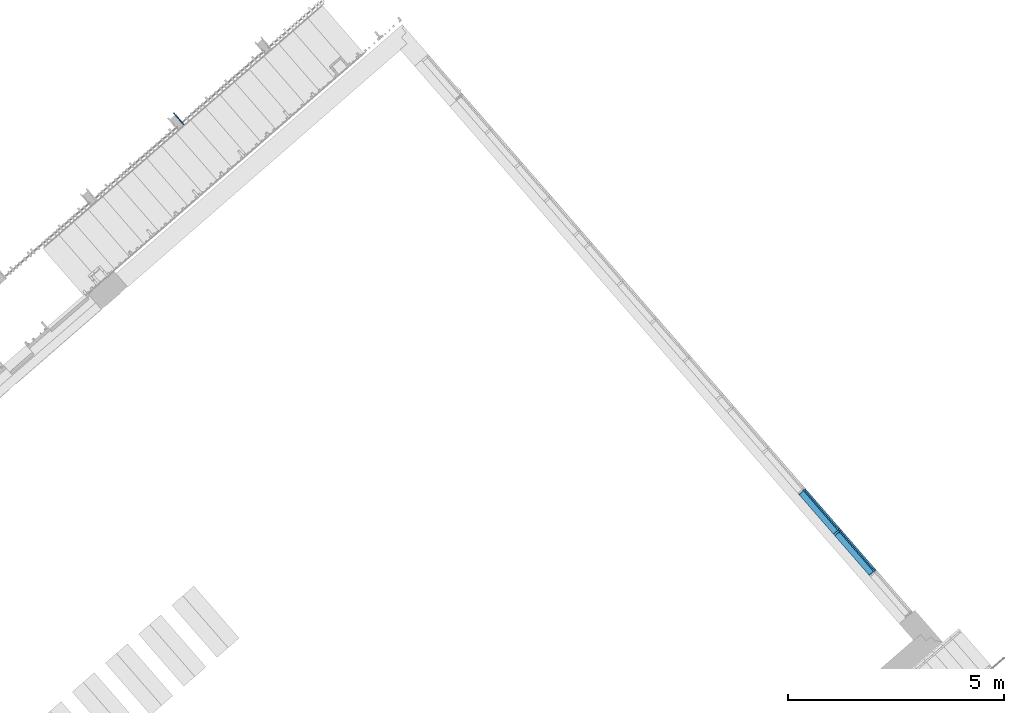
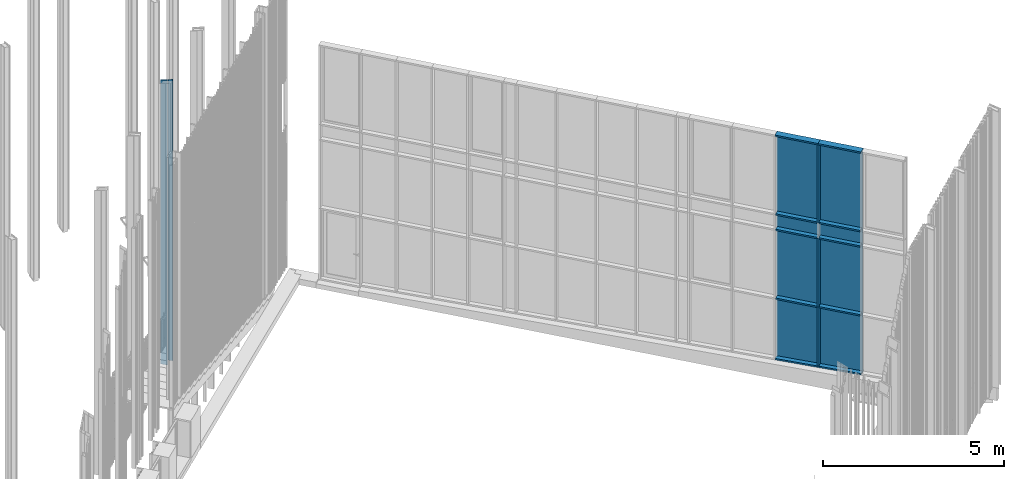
# One storey, part 56 of 390: 23 discrete accessories, 1 element without a shape of its own.
"""IFC2X3 building model written with IfcOpenShell, lengths in millimetres."""

from ifc_helpers import new_model, entity, si_unit, converted_unit, derived_unit, money_unit, direction, frame, origin_with_axes, place, context, subcontext, project, spatial, polyline, outline, extrude, clip, halfspace, faceted_brep, source, transform, mapped, material, material_list, type_object, element, aggregate, save


model = new_model("IFC2X3")

# Units and contexts
model_context = context("Model", 3, precision=1e-05, world=origin_with_axes(), true_north=direction((0.0, 1.0)))
body_context = subcontext(model_context, "Body", "Model", "MODEL_VIEW")
ifc_project = project(units=[si_unit("LENGTHUNIT", "METRE", prefix="MILLI"), si_unit("AREAUNIT", "SQUARE_METRE"), si_unit("VOLUMEUNIT", "CUBIC_METRE"), converted_unit("PLANEANGLEUNIT", "DEGREE", entity("IfcPlaneAngleMeasure", 0.0174532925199), si_unit("PLANEANGLEUNIT", "RADIAN"), dimensions=[0, 0, 0, 0, 0, 0, 0]), si_unit("SOLIDANGLEUNIT", "STERADIAN"), money_unit("EUR"), converted_unit("TIMEUNIT", "Year", entity("IfcTimeMeasure", 31556926.0), si_unit("TIMEUNIT", "SECOND"), dimensions=[0, 0, 1, 0, 0, 0, 0]), si_unit("MASSUNIT", "GRAM", prefix="KILO"), si_unit("THERMODYNAMICTEMPERATUREUNIT", "DEGREE_CELSIUS"), si_unit("LUMINOUSINTENSITYUNIT", "LUMEN"), si_unit("ENERGYUNIT", "JOULE", prefix="MEGA"), derived_unit("THERMALCONDUCTANCEUNIT", [(si_unit("POWERUNIT", "WATT"), 1), (si_unit("LENGTHUNIT", "METRE"), -1), (si_unit("THERMODYNAMICTEMPERATUREUNIT", "KELVIN"), -1)]), derived_unit("SPECIFICHEATCAPACITYUNIT", [(si_unit("ENERGYUNIT", "JOULE"), 1), (si_unit("MASSUNIT", "GRAM", prefix="KILO"), -1), (si_unit("THERMODYNAMICTEMPERATUREUNIT", "KELVIN"), -1)]), derived_unit("MASSDENSITYUNIT", [(si_unit("MASSUNIT", "GRAM", prefix="KILO"), 1), (si_unit("VOLUMEUNIT", "CUBIC_METRE"), -1)])], contexts=[model_context])

# Site, building, storey
site_placement = place(None, origin_with_axes())
site = spatial("IfcSite", under=ifc_project, at=site_placement, Name="Site", CompositionType="ELEMENT")
building_placement = place(site_placement, origin_with_axes())
building = spatial("IfcBuilding", under=site, at=building_placement, Name="Building", CompositionType="ELEMENT")
storey_placement = place(building_placement, origin_with_axes())
storey = spatial("IfcBuildingStorey", under=building, at=storey_placement, Name="1 korrus", CompositionType="ELEMENT", Elevation=0.0)

# Discrete accessories
ifc_material_1 = material(Name="GENEERILINE - VÄLINE VOODER")
discrete_accessory_type_1 = type_object("IfcDiscreteAccessoryType", Name="GENEERILINE - VÄLINE VOODER")
shared_shape_1 = source(origin_with_axes(), body_context, "Body", "Brep", [
    faceted_brep([(-162214.734723, 119652.308107, 100.0), (-162197.673015, 119513.351645, 100.0), (-162197.673015, 119513.351645, 9583.92304846), (-162214.734723, 119652.308107, 9546.41016151), (-162192.898708, 119654.989232, 100.0), (-162175.837, 119516.032771, 100.0), (-162175.837, 119516.032771, 9583.92304846), (-162192.898708, 119654.989232, 9546.41016151)], [[[0, 1, 2, 3]], [[1, 0, 4, 5]], [[6, 2, 1, 5]], [[3, 2, 6, 7]], [[0, 3, 7, 4]], [[5, 4, 7, 6]]]),
])
discrete_accessory_1_placement = place(storey_placement, frame((362966.573871, 104142.381226, 0.0), z_axis=(0.0, 0.0, 1.0), x_axis=(0.829037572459, 0.559192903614, 0.0)))
element("IfcDiscreteAccessory", 1, at=discrete_accessory_1_placement, inside=storey, type_object=discrete_accessory_type_1, material=ifc_material_1, Name="Päikesevarjestuspost", context=body_context, shape_type="MappedRepresentation", body=[
    mapped(shared_shape_1, transform((0.0, 0.0, 0.0))),
])
shared_shape_2 = source(origin_with_axes(), body_context, "Body", "Brep", [
    faceted_brep([(-162240.327285, 119860.742798, 9490.1408311), (-162240.327285, 119860.742798, -78.0534808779), (-162215.953417, 119662.233568, -78.0534808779), (-162215.953417, 119662.233568, 9543.73066959), (-162218.49127, 119863.423924, -78.0534808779), (-162218.49127, 119863.423924, 9490.1408311), (-162194.117401, 119664.914694, -78.0534808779), (-162194.117401, 119664.914694, 9543.73066959)], [[[0, 1, 2, 3]], [[4, 1, 0, 5]], [[1, 4, 6, 2]], [[2, 6, 7, 3]], [[5, 0, 3, 7]], [[6, 4, 5, 7]]]),
])
discrete_accessory_2_placement = place(storey_placement, frame((362966.573871, 104142.381226, 0.0), z_axis=(0.0, 0.0, 1.0), x_axis=(0.829037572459, 0.559192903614, 0.0)))
element("IfcDiscreteAccessory", 2, at=discrete_accessory_2_placement, inside=storey, type_object=discrete_accessory_type_1, material=ifc_material_1, Name="Päikesevarjestuspost", context=body_context, shape_type="MappedRepresentation", body=[
    mapped(shared_shape_2, transform((0.0, 0.0, 0.0))),
])

# Curtain wall, discrete accessories
curtain_wall_type = type_object("IfcCurtainWallType", Name="KLF-17", PredefinedType="NOTDEFINED")
curtain_wall_placement = place(storey_placement, frame((175630.823927, 104534.758561, -0.000216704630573), z_axis=(0.0, 0.0, 1.0), x_axis=(1.0, 0.0, 0.0)))
curtain_wall = element("IfcCurtainWall", 3, at=curtain_wall_placement, inside=storey, type_object=curtain_wall_type, Name="Klaasfassaad")
ifc_material_2 = material(Name="Klaas")
discrete_accessory_type_2 = type_object("IfcDiscreteAccessoryType", Name="1260 x 2655 x 20")
discrete_accessory_3_placement = place(curtain_wall_placement, frame((826.634376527, -950.934071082, 6577.50341211), z_axis=(0.0, 0.0, 1.0), x_axis=(-0.65605902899, 0.754709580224, 0.0)))
discrete_accessory_3 = element("IfcDiscreteAccessory", 4, at=discrete_accessory_3_placement, type_object=discrete_accessory_type_2, material=ifc_material_2, Name="KLF-17 klaaspakett", context=body_context, shape_type="SweptSolid", body=[
    extrude(outline(polyline([(-630.000018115, -1317.50318898), (629.999988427, -1317.50318898), (629.999988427, 1337.50319541), (-630.000018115, 1337.50319541), (-630.000018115, -1317.50318898)])), frame((0.0, -9.99999999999, 0.0), z_axis=(0.0, 1.0, 0.0), x_axis=(1.0, 0.0, 0.0)), (0.0, 0.0, 1.0), 20.0),
])
discrete_accessory_4_placement = place(curtain_wall_placement, frame((1653.26875305, -1901.86814216, 6577.50341211), z_axis=(0.0, 0.0, 1.0), x_axis=(-0.65605902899, 0.754709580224, 0.0)))
discrete_accessory_4 = element("IfcDiscreteAccessory", 5, at=discrete_accessory_4_placement, type_object=discrete_accessory_type_2, material=ifc_material_2, Name="KLF-17 klaaspakett", context=body_context, shape_type="SweptSolid", body=[
    extrude(outline(polyline([(-630.000018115, -1317.50318898), (629.999988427, -1317.50318898), (629.999988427, 1337.50319541), (-630.000018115, 1337.50319541), (-630.000018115, -1317.50318898)])), frame((0.0, -9.99999999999, 0.0), z_axis=(0.0, 1.0, 0.0), x_axis=(1.0, 0.0, 0.0)), (0.0, 0.0, 1.0), 20.0),
])
discrete_accessory_type_3 = type_object("IfcDiscreteAccessoryType", Name="1260 x 2017 x 20")
discrete_accessory_5_placement = place(curtain_wall_placement, frame((1653.26875305, -1901.86814216, 1388.65961568), z_axis=(0.0, 0.0, 1.0), x_axis=(-0.65605902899, 0.754709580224, 0.0)))
discrete_accessory_5 = element("IfcDiscreteAccessory", 6, at=discrete_accessory_5_placement, type_object=discrete_accessory_type_3, material=ifc_material_2, Name="KLF-17 klaaspakett", context=body_context, shape_type="SweptSolid", body=[
    extrude(outline(polyline([(-629.999997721, -1011.34061134), (630.000002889, -1011.34061134), (630.000002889, 1006.03820524), (-629.999997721, 976.632086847), (-629.999997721, -1011.34061134)])), frame((0.0, -9.99999999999, 0.0), z_axis=(0.0, 1.0, 0.0), x_axis=(1.0, 0.0, 0.0)), (0.0, 0.0, 1.0), 20.0000000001),
])
discrete_accessory_type_4 = type_object("IfcDiscreteAccessoryType", Name="1260 x 2320 x 20")
discrete_accessory_6_placement = place(curtain_wall_placement, frame((826.634376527, -950.934071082, 3560.0002167), z_axis=(0.0, 0.0, 1.0), x_axis=(-0.65605902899, 0.754709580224, 0.0)))
discrete_accessory_6 = element("IfcDiscreteAccessory", 7, at=discrete_accessory_6_placement, type_object=discrete_accessory_type_4, material=ifc_material_2, Name="KLF-17 klaaspakett", context=body_context, shape_type="SweptSolid", body=[
    extrude(outline(polyline([(-630.000009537, -1160.0), (630.000001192, -1160.0), (630.000001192, 1160.0), (-630.000009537, 1160.0), (-630.000009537, -1160.0)])), frame((0.0, -9.99999999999, 0.0), z_axis=(0.0, 1.0, 0.0), x_axis=(1.0, 0.0, 0.0)), (0.0, 0.0, 1.0), 20.0),
])
discrete_accessory_7_placement = place(curtain_wall_placement, frame((1653.26875305, -1901.86814216, 3560.0002167), z_axis=(0.0, 0.0, 1.0), x_axis=(-0.65605902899, 0.754709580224, 0.0)))
discrete_accessory_7 = element("IfcDiscreteAccessory", 8, at=discrete_accessory_7_placement, type_object=discrete_accessory_type_4, material=ifc_material_2, Name="KLF-17 klaaspakett", context=body_context, shape_type="SweptSolid", body=[
    extrude(outline(polyline([(-630.000009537, -1160.0), (630.000001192, -1160.0), (630.000001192, 1160.0), (-630.000009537, 1160.0), (-630.000009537, -1160.0)])), frame((0.0, -9.99999999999, 0.0), z_axis=(0.0, 1.0, 0.0), x_axis=(1.0, 0.0, 0.0)), (0.0, 0.0, 1.0), 20.0000000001),
])
discrete_accessory_type_5 = type_object("IfcDiscreteAccessoryType", Name="1260 x 520 x 20")
discrete_accessory_8_placement = place(curtain_wall_placement, frame((826.634376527, -950.934071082, 4980.0002167), z_axis=(0.0, 0.0, 1.0), x_axis=(-0.65605902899, 0.754709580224, 0.0)))
discrete_accessory_8 = element("IfcDiscreteAccessory", 9, at=discrete_accessory_8_placement, type_object=discrete_accessory_type_5, material=ifc_material_2, Name="KLF-17 klaaspakett", context=body_context, shape_type="SweptSolid", body=[
    extrude(outline(polyline([(-630.000003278, -259.999999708), (630.000003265, -259.999999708), (630.000003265, 260.0), (-630.000003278, 260.0), (-630.000003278, -259.999999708)])), frame((0.0, -9.99999999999, 0.0), z_axis=(0.0, 1.0, 0.0), x_axis=(1.0, 0.0, 0.0)), (0.0, 0.0, 1.0), 20.0),
])
discrete_accessory_9_placement = place(curtain_wall_placement, frame((1653.26875305, -1901.86814216, 4980.0002167), z_axis=(0.0, 0.0, 1.0), x_axis=(-0.65605902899, 0.754709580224, 0.0)))
discrete_accessory_9 = element("IfcDiscreteAccessory", 10, at=discrete_accessory_9_placement, type_object=discrete_accessory_type_5, material=ifc_material_2, Name="KLF-17 klaaspakett", context=body_context, shape_type="SweptSolid", body=[
    extrude(outline(polyline([(-630.000003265, -259.99999823), (630.000003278, -259.99999823), (630.000003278, 260.0), (-630.000003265, 260.0), (-630.000003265, -259.99999823)])), frame((0.0, -9.99999999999, 0.0), z_axis=(0.0, 1.0, 0.0), x_axis=(1.0, 0.0, 0.0)), (0.0, 0.0, 1.0), 20.0),
])
discrete_accessory_type_6 = type_object("IfcDiscreteAccessoryType", Name="1260 x 2047 x 20")
discrete_accessory_10_placement = place(curtain_wall_placement, frame((826.634376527, -950.934071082, 1373.95650709), z_axis=(0.0, 0.0, 1.0), x_axis=(-0.65605902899, 0.754709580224, 0.0)))
discrete_accessory_10 = element("IfcDiscreteAccessory", 11, at=discrete_accessory_10_placement, type_object=discrete_accessory_type_6, material=ifc_material_2, Name="KLF-17 klaaspakett", context=body_context, shape_type="SweptSolid", body=[
    extrude(outline(polyline([(-630.000006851, -1026.04372361), (630.000003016, -1026.04372361), (630.000003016, 1020.74143571), (-630.000037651, 991.33511124), (-630.000006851, -1026.04372361)])), frame((0.0, -10.0, 0.0), z_axis=(0.0, 1.0, 0.0), x_axis=(1.0, 0.0, 0.0)), (0.0, 0.0, 1.0), 20.0),
])
ifc_material_3 = material(Name="Aluminium MUST")
ifc_material_list = material_list([ifc_material_3, ifc_material_3])
discrete_accessory_type_7 = type_object("IfcDiscreteAccessoryType", Name="50 x 200")
discrete_accessory_11_placement = place(curtain_wall_placement, frame((1239.95156479, -1426.40110662, 5240.0002167), z_axis=(0.65605902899, -0.754709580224, 0.0), x_axis=(0.0, 0.0, 1.0)))
discrete_accessory_11 = element("IfcDiscreteAccessory", 12, at=discrete_accessory_11_placement, type_object=discrete_accessory_type_7, material=ifc_material_list, Name="KLF-17 profiil", context=body_context, shape_type="SweptSolid", body=[
    extrude(outline(polyline([(150.0, -25.0), (150.0, 25.0), (10.0, 25.0), (10.0, -25.0), (150.0, -25.0)])), frame((0.0, 0.0, 25.0), z_axis=(0.0, 0.0, 1.0), x_axis=(0.0, 1.0, 0.0)), (0.0, 0.0, 1.0), 1210.0),
    extrude(outline(polyline([(-50.0, 25.0), (-50.0, -25.0), (-9.99999999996, -25.0), (-9.99999999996, 25.0), (-50.0, 25.0)])), frame((0.0, 0.0, 25.0), z_axis=(0.0, 0.0, 1.0), x_axis=(0.0, 1.0, 0.0)), (0.0, 0.0, 1.0), 1210.0),
])
discrete_accessory_12_placement = place(curtain_wall_placement, frame((413.317188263, -475.467035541, 7915.00660752), z_axis=(0.65605902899, -0.754709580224, 0.0), x_axis=(0.0, 0.0, 1.0)))
discrete_accessory_12 = element("IfcDiscreteAccessory", 13, at=discrete_accessory_12_placement, type_object=discrete_accessory_type_7, Name="KLF-17 profiil", context=body_context, shape_type="SweptSolid", body=[
    extrude(outline(polyline([(9.99999999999, 25.0), (-10.0, 25.0), (-10.0, 0.0), (9.99999999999, 0.0), (9.99999999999, 25.0)])), frame((0.0, 0.0, 0.0), z_axis=(0.0, 0.0, 1.0), x_axis=(0.0, 1.0, 0.0)), (0.0, 0.0, 1.0), 1260.0),
    extrude(outline(polyline([(150.0, 50.0), (9.99999999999, 50.0), (9.99999999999, 0.0), (150.0, 0.0), (150.0, 50.0)])), frame((0.0, 0.0, 0.0), z_axis=(0.0, 0.0, 1.0), x_axis=(0.0, 1.0, 0.0)), (0.0, 0.0, 1.0), 1260.0),
    extrude(outline(polyline([(-50.0, 0.0), (-10.0, 0.0), (-10.0, 50.0), (-50.0, 50.0), (-50.0, 0.0)])), frame((0.0, 0.0, 0.0), z_axis=(0.0, 0.0, 1.0), x_axis=(0.0, 1.0, 0.0)), (0.0, 0.0, 1.0), 1260.0),
])
discrete_accessory_13_placement = place(curtain_wall_placement, frame((413.317188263, -475.467035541, 5240.0002167), z_axis=(0.65605902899, -0.754709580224, 0.0), x_axis=(0.0, 0.0, 1.0)))
discrete_accessory_13 = element("IfcDiscreteAccessory", 14, at=discrete_accessory_13_placement, type_object=discrete_accessory_type_7, material=ifc_material_list, Name="KLF-17 profiil", context=body_context, shape_type="SweptSolid", body=[
    extrude(outline(polyline([(150.0, -25.0), (150.0, 25.0), (9.99999999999, 25.0), (9.99999999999, -25.0), (150.0, -25.0)])), frame((0.0, 0.0, 25.0), z_axis=(0.0, 0.0, 1.0), x_axis=(0.0, 1.0, 0.0)), (0.0, 0.0, 1.0), 1210.0),
    extrude(outline(polyline([(-50.0, 25.0), (-50.0, -25.0), (-10.0, -25.0), (-10.0, 25.0), (-50.0, 25.0)])), frame((0.0, 0.0, 25.0), z_axis=(0.0, 0.0, 1.0), x_axis=(0.0, 1.0, 0.0)), (0.0, 0.0, 1.0), 1210.0),
])
discrete_accessory_14_placement = place(curtain_wall_placement, frame((1239.95156479, -1426.40110662, 5240.0002167), z_axis=(0.0, 0.0, 1.0), x_axis=(-0.65605902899, 0.754709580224, 0.0)))
discrete_accessory_14 = element("IfcDiscreteAccessory", 15, at=discrete_accessory_14_placement, type_object=discrete_accessory_type_7, material=ifc_material_list, Name="KLF-17 profiil", context=body_context, shape_type="SweptSolid", body=[
    extrude(outline(polyline([(-129.607912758, -79.5411148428), (-96.8049613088, -117.276593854), (8.8543799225, -25.4283297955), (-23.948571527, 12.3071492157), (-129.607912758, -79.5411148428)])), frame((0.0, 0.0, 0.0), z_axis=(0.0, 0.0, 1.0), x_axis=(-0.65605902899, -0.754709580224, 0.0)), (0.0, 0.0, 1.0), 2625.00639082),
    extrude(outline(polyline([(54.1369547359, 13.9352119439), (21.3340032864, 51.6706909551), (-8.8543799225, 25.4283297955), (23.9485715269, -12.3071492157), (54.1369547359, 13.9352119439)])), frame((0.0, 0.0, 0.0), z_axis=(0.0, 0.0, 1.0), x_axis=(-0.65605902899, -0.754709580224, 0.0)), (0.0, 0.0, 1.0), 2625.00639082),
])
discrete_accessory_15_placement = place(curtain_wall_placement, frame((1239.95156479, -1426.40110662, 362.615969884), z_axis=(0.655880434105, -0.754504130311, 0.0233318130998), x_axis=(-0.0153070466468, 0.0176087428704, 0.999727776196)))
discrete_accessory_15 = element("IfcDiscreteAccessory", 16, at=discrete_accessory_15_placement, type_object=discrete_accessory_type_7, Name="KLF-17 profiil", context=body_context, shape_type="SweptSolid", body=[
    extrude(outline(polyline([(9.99999999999, -25.0), (9.99999999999, 0.0), (-10.0, 0.0), (-10.0, -25.0), (9.99999999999, -25.0)])), frame((0.0, 0.0, -5.06184960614e-06), z_axis=(0.0, 0.0, 1.0), x_axis=(0.0, 1.0, 0.0)), (0.0, 0.0, 1.0), 1260.34310565),
    extrude(outline(polyline([(150.0, -50.0), (150.0, 0.0), (9.99999999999, 0.0), (9.99999999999, -50.0), (150.0, -50.0)])), frame((0.0, 0.0, -5.06184960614e-06), z_axis=(0.0, 0.0, 1.0), x_axis=(0.0, 1.0, 0.0)), (0.0, 0.0, 1.0), 1260.34310565),
    extrude(outline(polyline([(-50.0, 0.0), (-50.0, -50.0), (-10.0, -50.0), (-10.0, 0.0), (-50.0, 0.0)])), frame((0.0, 0.0, -5.06184960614e-06), z_axis=(0.0, 0.0, 1.0), x_axis=(0.0, 1.0, 0.0)), (0.0, 0.0, 1.0), 1260.34310565),
])
discrete_accessory_16_placement = place(curtain_wall_placement, frame((413.317188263, -475.467035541, 333.209625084), z_axis=(0.655880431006, -0.754504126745, 0.0233320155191), x_axis=(-0.0153071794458, 0.0176088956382, 0.999727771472)))
discrete_accessory_16 = element("IfcDiscreteAccessory", 17, at=discrete_accessory_16_placement, type_object=discrete_accessory_type_7, Name="KLF-17 profiil", context=body_context, shape_type="SweptSolid", body=[
    extrude(outline(polyline([(9.99999999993, -25.0), (10.0, 0.0), (-10.0, 0.0), (-10.0, -25.0), (9.99999999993, -25.0)])), frame((0.0, 0.0, -5.06184250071e-06), z_axis=(0.0, 0.0, 1.0), x_axis=(0.0, 1.0, 0.0)), (0.0, 0.0, 1.0), 1260.34311147),
    extrude(outline(polyline([(150.0, -50.0), (150.0, 0.0), (10.0, 0.0), (9.99999999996, -50.0), (150.0, -50.0)])), frame((0.0, 0.0, -5.06184250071e-06), z_axis=(0.0, 0.0, 1.0), x_axis=(0.0, 1.0, 0.0)), (0.0, 0.0, 1.0), 1260.34311147),
    extrude(outline(polyline([(-50.0, 0.0), (-50.0, -50.0), (-10.0, -50.0), (-10.0, 0.0), (-50.0, 0.0)])), frame((0.0, 0.0, -5.06188513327e-06), z_axis=(0.0, 0.0, 1.0), x_axis=(0.0, 1.0, 0.0)), (0.0, 0.0, 1.0), 1260.34311147),
])
discrete_accessory_17_placement = place(curtain_wall_placement, frame((1239.95156479, -1426.40110662, 362.615969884), z_axis=(0.0, 0.0, 1.0), x_axis=(-0.65605902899, 0.754709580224, 0.0)))
discrete_accessory_17 = element("IfcDiscreteAccessory", 18, at=discrete_accessory_17_placement, type_object=discrete_accessory_type_7, material=ifc_material_list, Name="KLF-17 profiil", context=body_context, shape_type="Clipping", body=[
    clip(extrude(outline(polyline([(-129.607912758, -79.5411148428), (-96.8049613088, -117.276593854), (8.8543799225, -25.4283297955), (-23.948571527, 12.3071492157), (-129.607912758, -79.5411148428)])), frame((0.0, 0.0, 49.4301559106), z_axis=(0.0, 0.0, 1.0), x_axis=(-0.65605902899, -0.754709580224, 0.0)), (0.0, 0.0, 1.0), 1987.95409091), halfspace(frame((1.16660077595, 0.0, 49.9863885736), z_axis=(0.0233320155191, 0.0, 0.999727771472), x_axis=(0.0, -1.0, 0.0)), True)),
    clip(extrude(outline(polyline([(54.1369547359, 13.9352119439), (21.3340032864, 51.6706909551), (-8.8543799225, 25.4283297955), (23.9485715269, -12.3071492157), (54.1369547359, 13.9352119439)])), frame((0.0, 0.0, 49.4301559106), z_axis=(0.0, 0.0, 1.0), x_axis=(-0.65605902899, -0.754709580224, 0.0)), (0.0, 0.0, 1.0), 1987.95409091), halfspace(frame((1.16660077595, 0.0, 49.9863885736), z_axis=(0.0233320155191, 0.0, 0.999727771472), x_axis=(0.0, -1.0, 0.0)), True)),
])
discrete_accessory_18_placement = place(curtain_wall_placement, frame((1239.95156479, -1426.40110662, 2400.0002167), z_axis=(0.0, 0.0, 1.0), x_axis=(-0.65605902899, 0.754709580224, 0.0)))
discrete_accessory_18 = element("IfcDiscreteAccessory", 19, at=discrete_accessory_18_placement, type_object=discrete_accessory_type_7, material=ifc_material_list, Name="KLF-17 profiil", context=body_context, shape_type="SweptSolid", body=[
    extrude(outline(polyline([(-129.607912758, -79.5411148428), (-96.8049613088, -117.276593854), (8.8543799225, -25.4283297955), (-23.948571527, 12.3071492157), (-129.607912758, -79.5411148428)])), frame((0.0, 0.0, 0.0), z_axis=(0.0, 0.0, 1.0), x_axis=(-0.65605902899, -0.754709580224, 0.0)), (0.0, 0.0, 1.0), 2320.0),
    extrude(outline(polyline([(54.1369547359, 13.9352119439), (21.3340032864, 51.6706909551), (-8.8543799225, 25.4283297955), (23.9485715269, -12.3071492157), (54.1369547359, 13.9352119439)])), frame((0.0, 0.0, 0.0), z_axis=(0.0, 0.0, 1.0), x_axis=(-0.65605902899, -0.754709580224, 0.0)), (0.0, 0.0, 1.0), 2320.0),
])
discrete_accessory_19_placement = place(curtain_wall_placement, frame((413.317188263, -475.467035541, 2400.0002167), z_axis=(0.65605902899, -0.754709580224, 0.0), x_axis=(0.0, 0.0, 1.0)))
discrete_accessory_19 = element("IfcDiscreteAccessory", 20, at=discrete_accessory_19_placement, type_object=discrete_accessory_type_7, material=ifc_material_list, Name="KLF-17 profiil", context=body_context, shape_type="SweptSolid", body=[
    extrude(outline(polyline([(150.0, -25.0), (150.0, 25.0), (9.99999999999, 25.0), (9.99999999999, -25.0), (150.0, -25.0)])), frame((0.0, 0.0, 25.0), z_axis=(0.0, 0.0, 1.0), x_axis=(0.0, 1.0, 0.0)), (0.0, 0.0, 1.0), 1210.0),
    extrude(outline(polyline([(-50.0, 25.0), (-50.0, -25.0), (-10.0, -25.0), (-10.0, 25.0), (-50.0, 25.0)])), frame((0.0, 0.0, 25.0), z_axis=(0.0, 0.0, 1.0), x_axis=(0.0, 1.0, 0.0)), (0.0, 0.0, 1.0), 1210.0),
])
discrete_accessory_20_placement = place(curtain_wall_placement, frame((413.317188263, -475.467035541, 4720.0002167), z_axis=(0.65605902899, -0.754709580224, 0.0), x_axis=(0.0, 0.0, 1.0)))
discrete_accessory_20 = element("IfcDiscreteAccessory", 21, at=discrete_accessory_20_placement, type_object=discrete_accessory_type_7, material=ifc_material_list, Name="KLF-17 profiil", context=body_context, shape_type="SweptSolid", body=[
    extrude(outline(polyline([(150.0, -25.0), (150.0, 25.0), (9.99999999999, 25.0), (9.99999999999, -25.0), (150.0, -25.0)])), frame((0.0, 0.0, 25.0), z_axis=(0.0, 0.0, 1.0), x_axis=(0.0, 1.0, 0.0)), (0.0, 0.0, 1.0), 1210.0),
    extrude(outline(polyline([(-50.0, 25.0), (-50.0, -25.0), (-10.0, -25.0), (-10.0, 25.0), (-50.0, 25.0)])), frame((0.0, 0.0, 25.0), z_axis=(0.0, 0.0, 1.0), x_axis=(0.0, 1.0, 0.0)), (0.0, 0.0, 1.0), 1210.0),
])
discrete_accessory_21_placement = place(curtain_wall_placement, frame((1239.95156479, -1426.40110662, 7915.00660752), z_axis=(0.65605902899, -0.754709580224, 0.0), x_axis=(0.0, 0.0, 1.0)))
discrete_accessory_21 = element("IfcDiscreteAccessory", 22, at=discrete_accessory_21_placement, type_object=discrete_accessory_type_7, Name="KLF-17 profiil", context=body_context, shape_type="SweptSolid", body=[
    extrude(outline(polyline([(9.99999999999, 25.0), (-9.99999999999, 25.0), (-9.99999999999, 0.0), (9.99999999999, 0.0), (9.99999999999, 25.0)])), frame((0.0, 0.0, 0.0), z_axis=(0.0, 0.0, 1.0), x_axis=(0.0, 1.0, 0.0)), (0.0, 0.0, 1.0), 1260.0),
    extrude(outline(polyline([(150.0, 50.0), (9.99999999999, 50.0), (9.99999999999, 0.0), (150.0, 0.0), (150.0, 50.0)])), frame((0.0, 0.0, 0.0), z_axis=(0.0, 0.0, 1.0), x_axis=(0.0, 1.0, 0.0)), (0.0, 0.0, 1.0), 1260.0),
    extrude(outline(polyline([(-50.0, 0.0), (-9.99999999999, 0.0), (-9.99999999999, 50.0), (-50.0, 50.0), (-50.0, 0.0)])), frame((0.0, 0.0, 0.0), z_axis=(0.0, 0.0, 1.0), x_axis=(0.0, 1.0, 0.0)), (0.0, 0.0, 1.0), 1260.0),
])
discrete_accessory_22_placement = place(curtain_wall_placement, frame((1239.95156479, -1426.40110662, 2400.0002167), z_axis=(0.65605902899, -0.754709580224, 0.0), x_axis=(0.0, 0.0, 1.0)))
discrete_accessory_22 = element("IfcDiscreteAccessory", 23, at=discrete_accessory_22_placement, type_object=discrete_accessory_type_7, material=ifc_material_list, Name="KLF-17 profiil", context=body_context, shape_type="SweptSolid", body=[
    extrude(outline(polyline([(150.0, -25.0), (150.0, 25.0), (10.0, 25.0), (10.0, -25.0), (150.0, -25.0)])), frame((0.0, 0.0, 25.0), z_axis=(0.0, 0.0, 1.0), x_axis=(0.0, 1.0, 0.0)), (0.0, 0.0, 1.0), 1210.0),
    extrude(outline(polyline([(-50.0, 25.0), (-50.0, -25.0), (-9.99999999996, -25.0), (-9.99999999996, 25.0), (-50.0, 25.0)])), frame((0.0, 0.0, 25.0), z_axis=(0.0, 0.0, 1.0), x_axis=(0.0, 1.0, 0.0)), (0.0, 0.0, 1.0), 1210.0),
])
discrete_accessory_23_placement = place(curtain_wall_placement, frame((1239.95156479, -1426.40110662, 4720.0002167), z_axis=(0.65605902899, -0.754709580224, 0.0), x_axis=(0.0, 0.0, 1.0)))
discrete_accessory_23 = element("IfcDiscreteAccessory", 24, at=discrete_accessory_23_placement, type_object=discrete_accessory_type_7, material=ifc_material_list, Name="KLF-17 profiil", context=body_context, shape_type="SweptSolid", body=[
    extrude(outline(polyline([(150.0, -25.0), (150.0, 25.0), (10.0, 25.0), (10.0, -25.0), (150.0, -25.0)])), frame((0.0, 0.0, 25.0), z_axis=(0.0, 0.0, 1.0), x_axis=(0.0, 1.0, 0.0)), (0.0, 0.0, 1.0), 1210.0),
    extrude(outline(polyline([(-50.0, 25.0), (-50.0, -25.0), (-9.99999999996, -25.0), (-9.99999999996, 25.0), (-50.0, 25.0)])), frame((0.0, 0.0, 25.0), z_axis=(0.0, 0.0, 1.0), x_axis=(0.0, 1.0, 0.0)), (0.0, 0.0, 1.0), 1210.0),
])
aggregate(curtain_wall, [discrete_accessory_3, discrete_accessory_5, discrete_accessory_6, discrete_accessory_8, discrete_accessory_4, discrete_accessory_7, discrete_accessory_9, discrete_accessory_10, discrete_accessory_11, discrete_accessory_12, discrete_accessory_13, discrete_accessory_14, discrete_accessory_15, discrete_accessory_16, discrete_accessory_17, discrete_accessory_18, discrete_accessory_19, discrete_accessory_20, discrete_accessory_21, discrete_accessory_22, discrete_accessory_23])

save(model, "model.ifc")
